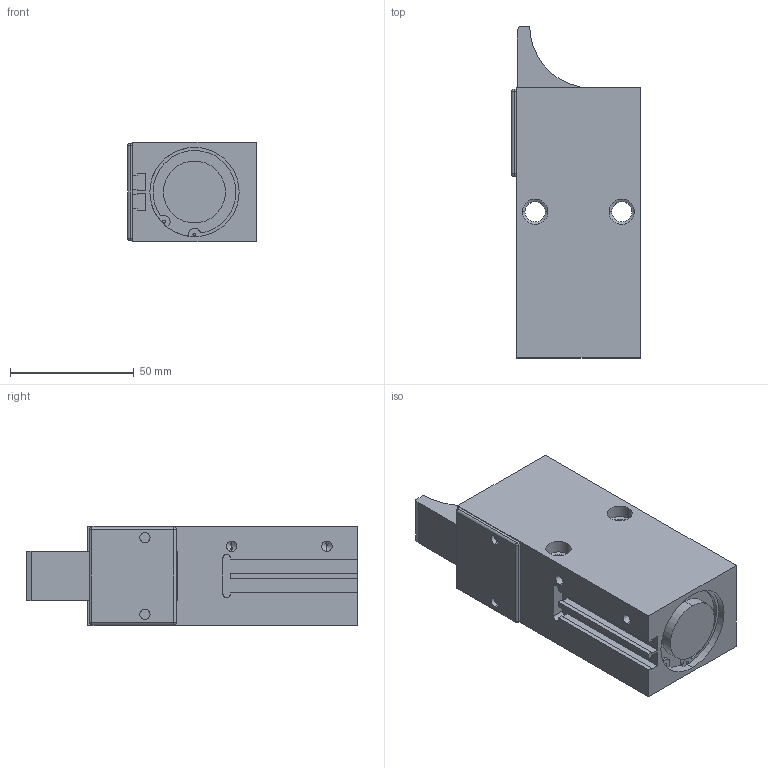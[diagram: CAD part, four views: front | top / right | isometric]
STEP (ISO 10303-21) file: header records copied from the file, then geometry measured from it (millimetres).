
FILE_DESCRIPTION (( 'STEP AP203' ), '1' );
FILE_NAME ('D0400-25-EW-E.STEP', '2011-09-27T12:59:14', ( 'test' ), ( '' ), 'SwSTEP 2.0', 'SolidWorks 2010', '' );
FILE_SCHEMA (( 'CONFIG_CONTROL_DESIGN' ));
Length unit declared in the file: millimetre
Products named in the file (1): D0400-25-EW-E
Bounding box: 52 x 134 x 40 mm (x, y, z)
Volume: 204934 mm3; surface area: 37321.2 mm2
Topology: 1 solids, 1 shells, 133 faces, 334 edges, 198 vertices
Faces by surface type: cylinder 60, plane 49, cone 20, sphere 4
Entity records: 3937 total; most frequent: DIRECTION 706, CARTESIAN_POINT 664, ORIENTED_EDGE 636, EDGE_CURVE 318, AXIS2_PLACEMENT_3D 256, VERTEX_POINT 198, LINE 194, VECTOR 194
